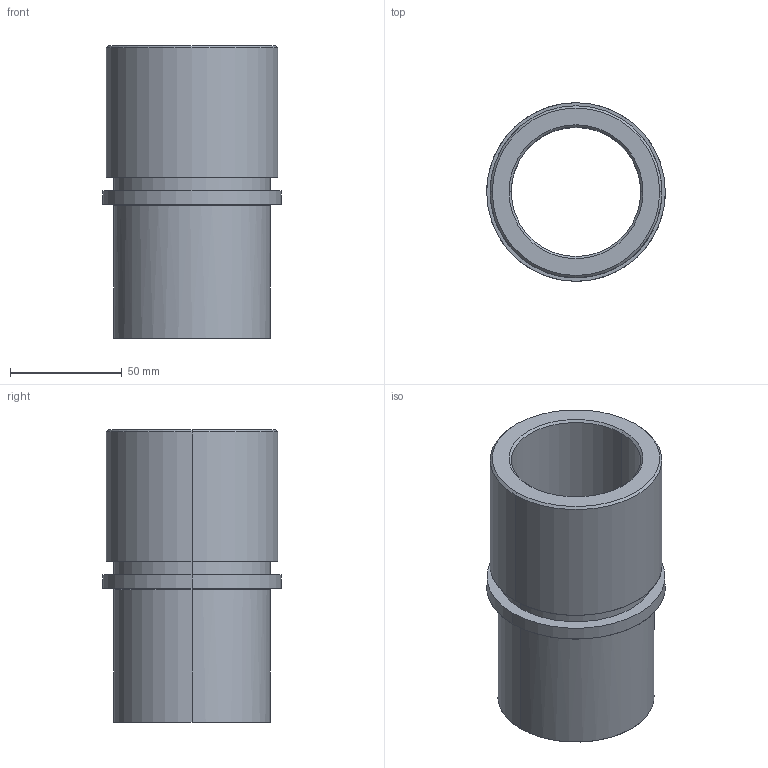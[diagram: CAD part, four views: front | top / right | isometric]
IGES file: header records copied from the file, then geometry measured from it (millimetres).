
Start section: START RECORD GO HERE.
Global section: file name: 734-50.igs; native system: DASSAULT SYSTEMES CATIA V5 R20 - www.3ds.com; preprocessor: CATIA Version 5 Release 20 ; author: Utente; organization: NB04-ASUS; date: 20210111.200959; units: millimetre
Bounding box: 80 x 80 x 131 mm (x, y, z)
Surface area: 60550.1 mm2 (no closed solid volume)
Topology: 0 solids, 0 shells, 25 faces, 100 edges, 100 vertices
Faces by surface type: revolution 20, plane 5
